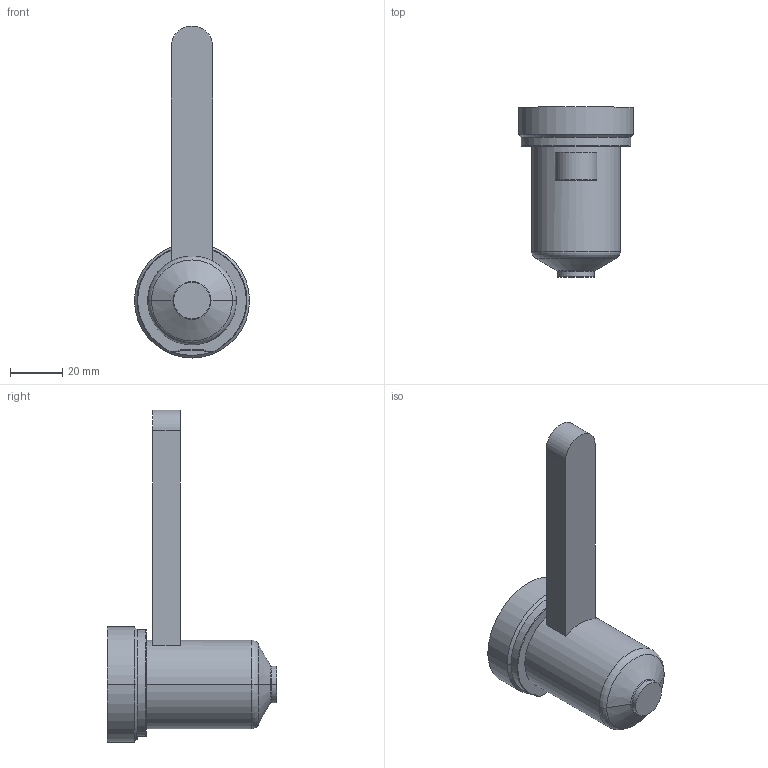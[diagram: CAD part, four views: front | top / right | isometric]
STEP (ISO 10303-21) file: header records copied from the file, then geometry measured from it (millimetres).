
FILE_DESCRIPTION((''),'2;1');
FILE_NAME('EO10_VG-FB_WR_050_COT','2024-02-19T13:34:32',('sundharh'),(''),'CREO PARAMETRIC BY PTC INC, 2023154','CREO PARAMETRIC BY PTC INC, 2023154','');
FILE_SCHEMA(('CONFIG_CONTROL_DESIGN'));
Length unit declared in the file: millimetre
Products named in the file (1): EO10_VG-FB_WR_050_COT
Bounding box: 44 x 65 x 127 mm (x, y, z)
Volume: 77952.3 mm3; surface area: 14252.1 mm2
Topology: 1 solids, 1 shells, 31 faces, 67 edges, 40 vertices
Faces by surface type: cylinder 11, plane 9, torus 7, cone 4
Entity records: 959 total; most frequent: CARTESIAN_POINT 226, DIRECTION 159, ORIENTED_EDGE 134, AXIS2_PLACEMENT_3D 67, EDGE_CURVE 67, VERTEX_POINT 40, CIRCLE 36, EDGE_LOOP 33
